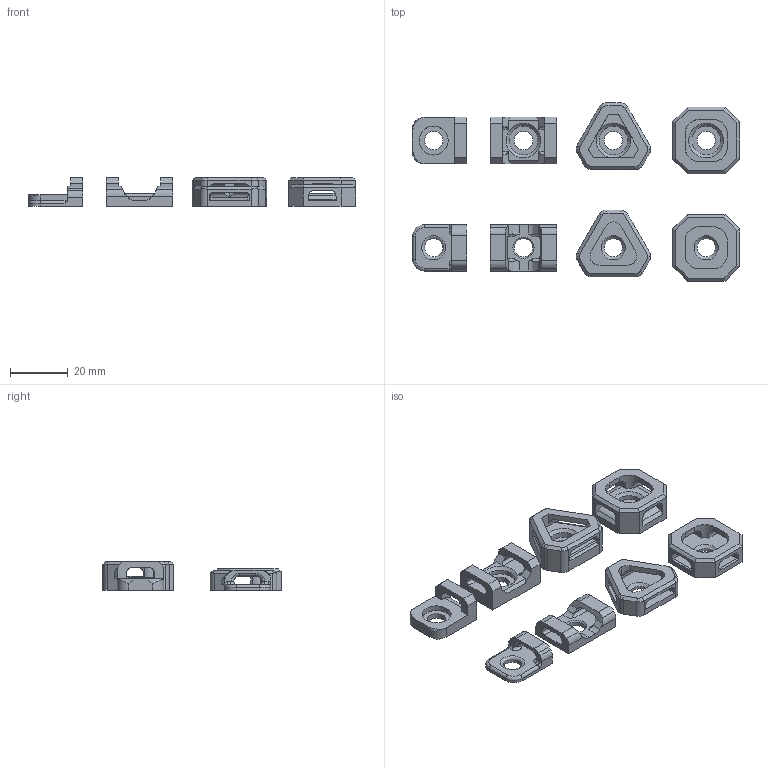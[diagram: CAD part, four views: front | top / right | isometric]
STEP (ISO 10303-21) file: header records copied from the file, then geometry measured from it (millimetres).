
FILE_DESCRIPTION(('HOOPS Exchange Step'),'2;1');
FILE_NAME('E:\U\Ultimate Ziptie Holder Set\UZHS_ALL.stp','2024-03-19T11:38:44-07:00',('sepeh'),('Unknown organisation'),'HOOPS Exchange 2023.2','HOOPS Exchange','Unknown authorisation');
FILE_SCHEMA( ('AP203_CONFIGURATION_CONTROLLED_3D_DESIGN_OF_MECHANICAL_PARTS_AND_ASSEMBLIES_MIM_LF') );
Length unit declared in the file: millimetre
Products named in the file (1): export
Bounding box: 112.8 x 61.5 x 10 mm (x, y, z)
Volume: 13931.8 mm3; surface area: 12889 mm2
Topology: 8 solids, 8 shells, 370 faces, 1088 edges, 722 vertices
Faces by surface type: plane 208, cylinder 147, torus 9, cone 6
Full cylindrical faces by diameter (mm): 6.3 x8, 10 x4
Entity records: 13023 total; most frequent: CARTESIAN_POINT 2763, ORIENTED_EDGE 2176, DIRECTION 2153, EDGE_CURVE 1088, AXIS2_PLACEMENT_3D 730, VERTEX_POINT 722, VECTOR 693, LINE 693
